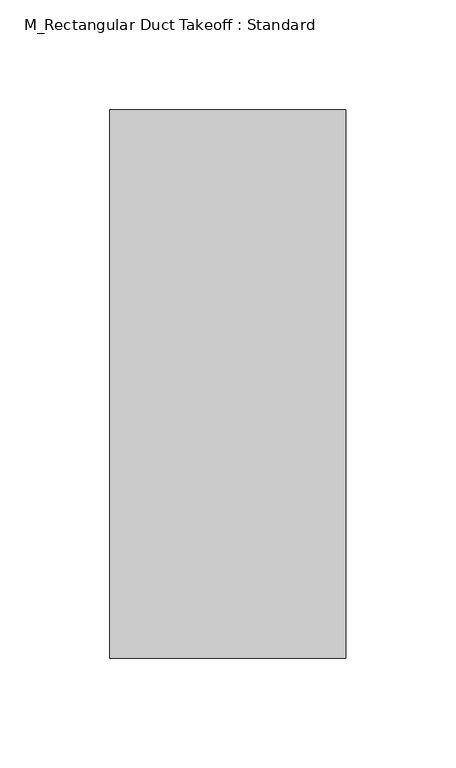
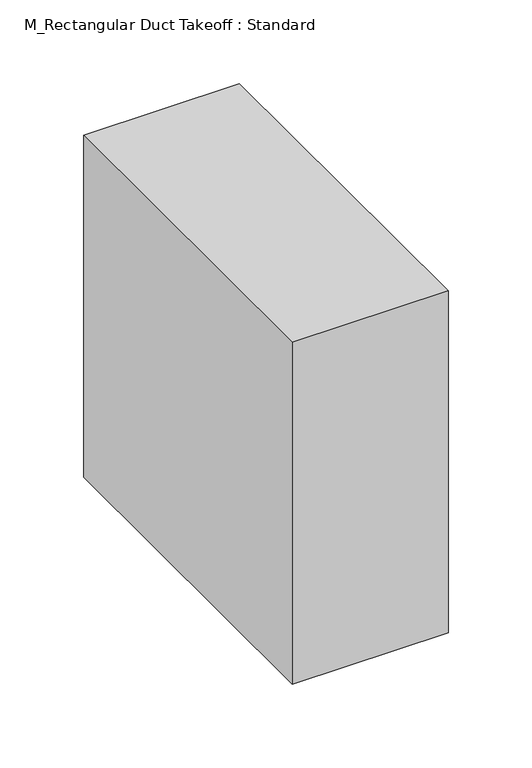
"""IFC4 building model written with IfcOpenShell, lengths in millimetres: duct fitting geometry, M_Rectangular Duct Takeoff : Standard."""

from ifc_helpers import new_model, si_unit, frame, origin, place, context, project, spatial, polyline, outline, extrude, source, transform, mapped, element, save


def m_rectangular_duct_takeoff_standard_1d6a8af3(model_context):
    return source(origin(), model_context, "Body", "SweptSolid", [
        extrude(outline(polyline([(-6.096, -125.0), (-6.096, 125.0), (101.6, 125.0), (101.6, -125.0), (-6.096, -125.0)])), frame((0.0, 0.0, -125.0), z_axis=(0.0, 0.0, 1.0), x_axis=(1.0, 0.0, 0.0)), (0.0, 0.0, 1.0), 250.0),
        extrude(outline(polyline([(-6.096, -125.0), (-6.096, 125.0), (101.6, 125.0), (101.6, -125.0), (-6.096, -125.0)])), frame((0.0, 0.0, -125.0), z_axis=(0.0, 0.0, 1.0), x_axis=(1.0, 0.0, 0.0)), (0.0, 0.0, 1.0), 250.0),
        extrude(outline(polyline([(-6.096, -125.0), (-6.096, 125.0), (101.6, 125.0), (101.6, -125.0), (-6.096, -125.0)])), frame((0.0, 0.0, -125.0), z_axis=(0.0, 0.0, 1.0), x_axis=(1.0, 0.0, 0.0)), (0.0, 0.0, 1.0), 250.0),
    ])


if __name__ == "__main__":
    model = new_model("IFC4")
    model_context = context("Model", 3, world=origin())
    ifc_project = project(units=[si_unit("LENGTHUNIT", "METRE", prefix="MILLI")], contexts=[model_context])
    site = spatial("IfcSite", under=ifc_project)
    building = spatial("IfcBuilding", under=site)
    placement = place(None, origin())
    m_rectangular_duct_takeoff_standard_shape = m_rectangular_duct_takeoff_standard_1d6a8af3(model_context)
    element("IfcDuctFitting", 1, ObjectType="M_Rectangular Duct Takeoff : Standard", at=placement, inside=building, context=model_context, shape_type="MappedRepresentation", body=[
        mapped(m_rectangular_duct_takeoff_standard_shape, transform((0.0, 0.0, 0.0), x_axis=(1.0, 0.0, 0.0), y_axis=(0.0, 1.0, 0.0), z_axis=(0.0, 0.0, 1.0))),
    ])
    save(model, "model.ifc")
